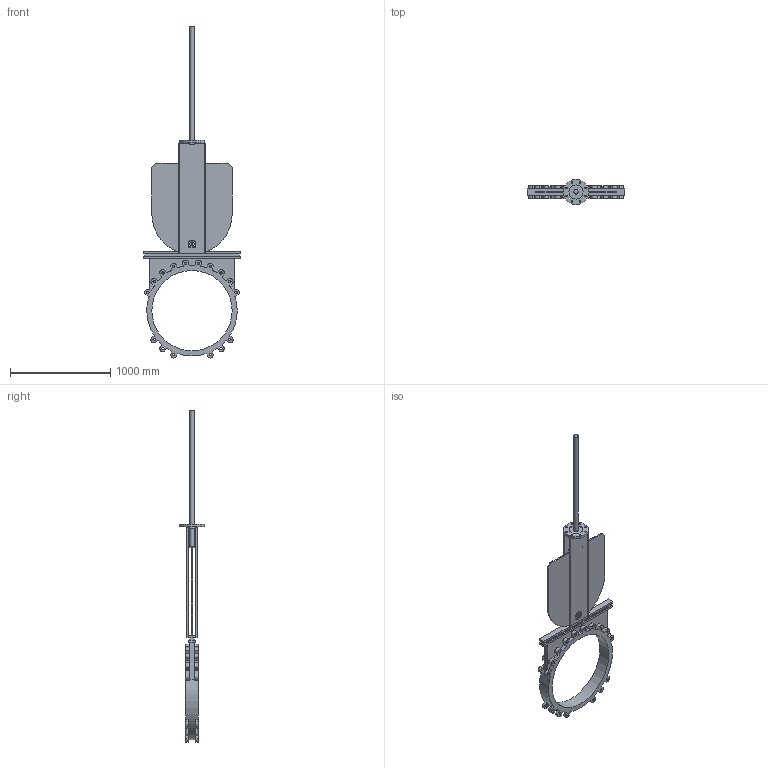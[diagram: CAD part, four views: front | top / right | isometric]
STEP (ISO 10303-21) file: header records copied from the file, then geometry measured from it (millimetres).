
FILE_DESCRIPTION(('STEP AP203'), '1');
FILE_NAME('K51GVA_DN800', '', ('UNSPECIFIED'), ('UNSPECIFIED'), 'ASCON STEP Converter 1.6', 'ASCON Math Kernel', '');
FILE_SCHEMA(('CONFIG_CONTROL_DESIGN'));
Length unit declared in the file: millimetre
Bounding box: 975 x 250 x 3308.17 mm (x, y, z)
Volume: 43249030.2 mm3; surface area: 4778005.7 mm2
Topology: 1 solids, 1 shells, 345 faces, 981 edges, 647 vertices
Faces by surface type: plane 172, cylinder 152, cone 21
Full cylindrical faces by diameter (mm): 18 x8, 23.752 x32, 46 x2, 80 x1, 140 x1, 250 x1, 800 x1, 901 x1
Entity records: 13698 total; most frequent: DIRECTION 1964, CARTESIAN_POINT 1866, ORIENTED_EDGE 1786, EDGE_CURVE 893, AXIS2_PLACEMENT_3D 725, VERTEX_POINT 627, LINE 514, VECTOR 514
